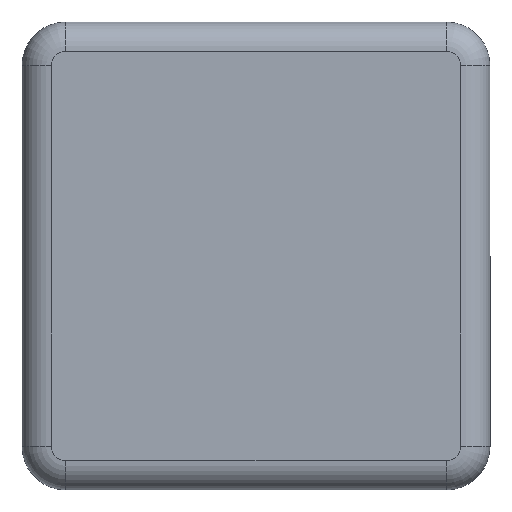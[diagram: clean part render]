
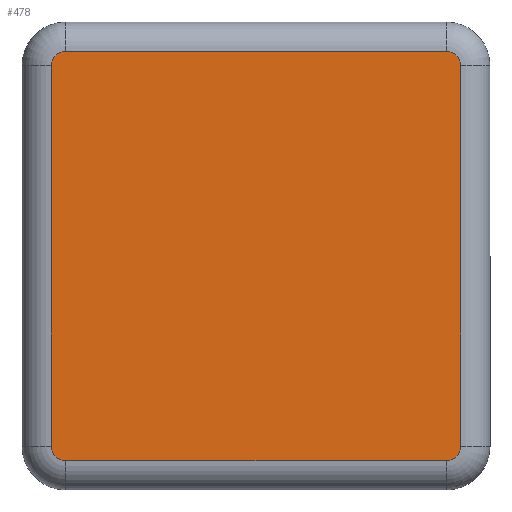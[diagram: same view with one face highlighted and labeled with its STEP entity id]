
A CAD part, top view. The second image highlights one B-rep face of the part: STEP entity #478.
In plain terms, the highlighted planar face has unit normal (0, 0, 1).
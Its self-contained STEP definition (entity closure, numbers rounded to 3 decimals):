
#1 = CARTESIAN_POINT ( 'NONE',  ( 14., 13., 2. ) ) ;
#5 = ORIENTED_EDGE ( 'NONE', *, *, #474, .T. ) ;
#14 = CARTESIAN_POINT ( 'NONE',  ( -13., 14., 2. ) ) ;
#32 = ORIENTED_EDGE ( 'NONE', *, *, #244, .T. ) ;
#42 = EDGE_CURVE ( 'NONE', #433, #371, #428, .T. ) ;
#44 = ORIENTED_EDGE ( 'NONE', *, *, #517, .T. ) ;
#45 = EDGE_CURVE ( 'NONE', #134, #287, #256, .T. ) ;
#54 = CARTESIAN_POINT ( 'NONE',  ( -13., 14., 2. ) ) ;
#65 = CIRCLE ( 'NONE', #278, 1. ) ;
#72 = VECTOR ( 'NONE', #487, 1000. ) ;
#76 = FACE_OUTER_BOUND ( 'NONE', #449, .T. ) ;
#79 = CARTESIAN_POINT ( 'NONE',  ( -13., -14., 2. ) ) ;
#82 = LINE ( 'NONE', #328, #72 ) ;
#94 = EDGE_CURVE ( 'NONE', #202, #134, #306, .T. ) ;
#117 = CARTESIAN_POINT ( 'NONE',  ( 14., 13., 2. ) ) ;
#118 = VERTEX_POINT ( 'NONE', #141 ) ;
#121 = AXIS2_PLACEMENT_3D ( 'NONE', #443, #398, #479 ) ;
#134 = VERTEX_POINT ( 'NONE', #453 ) ;
#141 = CARTESIAN_POINT ( 'NONE',  ( -14., -13., 2. ) ) ;
#147 = ORIENTED_EDGE ( 'NONE', *, *, #45, .T. ) ;
#161 = DIRECTION ( 'NONE',  ( 0., 0., 1. ) ) ;
#170 = DIRECTION ( 'NONE',  ( 0., 0., 1. ) ) ;
#177 = DIRECTION ( 'NONE',  ( -1., 0., 0. ) ) ;
#196 = CARTESIAN_POINT ( 'NONE',  ( -14., -13., 2. ) ) ;
#200 = VECTOR ( 'NONE', #201, 1000. ) ;
#201 = DIRECTION ( 'NONE',  ( 0., 1., 0. ) ) ;
#202 = VERTEX_POINT ( 'NONE', #1 ) ;
#203 = EDGE_CURVE ( 'NONE', #430, #433, #82, .T. ) ;
#215 = AXIS2_PLACEMENT_3D ( 'NONE', #217, #384, #467 ) ;
#217 = CARTESIAN_POINT ( 'NONE',  ( 13., -13., 2. ) ) ;
#219 = AXIS2_PLACEMENT_3D ( 'NONE', #240, #366, #370 ) ;
#240 = CARTESIAN_POINT ( 'NONE',  ( 13., 13., 2. ) ) ;
#244 = EDGE_CURVE ( 'NONE', #287, #524, #65, .T. ) ;
#251 = PLANE ( 'NONE',  #219 ) ;
#256 = LINE ( 'NONE', #14, #285 ) ;
#266 = ORIENTED_EDGE ( 'NONE', *, *, #94, .T. ) ;
#272 = AXIS2_PLACEMENT_3D ( 'NONE', #354, #170, #344 ) ;
#278 = AXIS2_PLACEMENT_3D ( 'NONE', #379, #161, #423 ) ;
#285 = VECTOR ( 'NONE', #177, 1000. ) ;
#286 = CARTESIAN_POINT ( 'NONE',  ( 13., -14., 2. ) ) ;
#287 = VERTEX_POINT ( 'NONE', #54 ) ;
#289 = VECTOR ( 'NONE', #458, 1000. ) ;
#293 = LINE ( 'NONE', #196, #289 ) ;
#306 = CIRCLE ( 'NONE', #272, 1. ) ;
#315 = CARTESIAN_POINT ( 'NONE',  ( 14., -13., 2. ) ) ;
#328 = CARTESIAN_POINT ( 'NONE',  ( 13., -14., 2. ) ) ;
#330 = EDGE_CURVE ( 'NONE', #118, #430, #337, .T. ) ;
#337 = CIRCLE ( 'NONE', #121, 1. ) ;
#344 = DIRECTION ( 'NONE',  ( 1., 0., 0. ) ) ;
#354 = CARTESIAN_POINT ( 'NONE',  ( 13., 13., 2. ) ) ;
#366 = DIRECTION ( 'NONE',  ( 0., 0., 1. ) ) ;
#370 = DIRECTION ( 'NONE',  ( 1., 0., 0. ) ) ;
#371 = VERTEX_POINT ( 'NONE', #315 ) ;
#373 = CARTESIAN_POINT ( 'NONE',  ( -14., 13., 2. ) ) ;
#378 = ORIENTED_EDGE ( 'NONE', *, *, #42, .T. ) ;
#379 = CARTESIAN_POINT ( 'NONE',  ( -13., 13., 2. ) ) ;
#384 = DIRECTION ( 'NONE',  ( 0., 0., 1. ) ) ;
#398 = DIRECTION ( 'NONE',  ( 0., 0., 1. ) ) ;
#423 = DIRECTION ( 'NONE',  ( 1., 0., 0. ) ) ;
#428 = CIRCLE ( 'NONE', #215, 1. ) ;
#430 = VERTEX_POINT ( 'NONE', #79 ) ;
#433 = VERTEX_POINT ( 'NONE', #286 ) ;
#443 = CARTESIAN_POINT ( 'NONE',  ( -13., -13., 2. ) ) ;
#449 = EDGE_LOOP ( 'NONE', ( #147, #32, #5, #497, #501, #378, #44, #266 ) ) ;
#453 = CARTESIAN_POINT ( 'NONE',  ( 13., 14., 2. ) ) ;
#458 = DIRECTION ( 'NONE',  ( 0., -1., 0. ) ) ;
#467 = DIRECTION ( 'NONE',  ( 1., 0., 0. ) ) ;
#474 = EDGE_CURVE ( 'NONE', #524, #118, #293, .T. ) ;
#478 = ADVANCED_FACE ( 'NONE', ( #76 ), #251, .T. ) ;
#479 = DIRECTION ( 'NONE',  ( 1., 0., 0. ) ) ;
#487 = DIRECTION ( 'NONE',  ( 1., 0., 0. ) ) ;
#488 = LINE ( 'NONE', #117, #200 ) ;
#497 = ORIENTED_EDGE ( 'NONE', *, *, #330, .T. ) ;
#501 = ORIENTED_EDGE ( 'NONE', *, *, #203, .T. ) ;
#517 = EDGE_CURVE ( 'NONE', #371, #202, #488, .T. ) ;
#524 = VERTEX_POINT ( 'NONE', #373 ) ;
